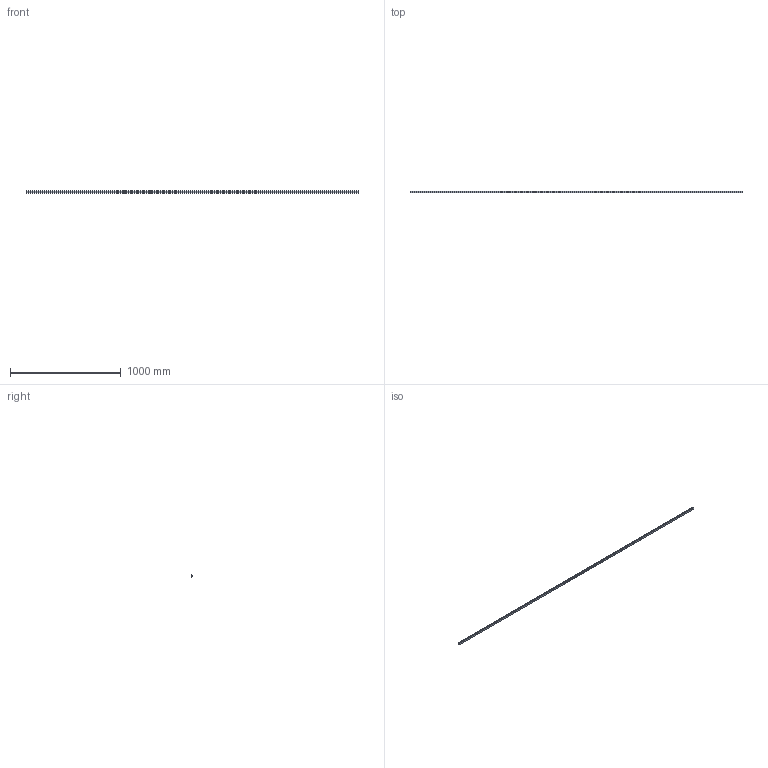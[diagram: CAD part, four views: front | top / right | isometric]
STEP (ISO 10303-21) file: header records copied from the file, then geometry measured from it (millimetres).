
FILE_DESCRIPTION (( 'STEP AP214' ), '1' );
FILE_NAME ('FABER - FL5.step', '2017-04-06T07:46:12', ( '' ), ( '' ), 'SwSTEP 2.0', 'SolidWorks 2016', '' );
FILE_SCHEMA (( 'AUTOMOTIVE_DESIGN' ));
Length unit declared in the file: millimetre
Products named in the file (1): FABER - FL5
Bounding box: 3000 x 12 x 20 mm (x, y, z)
Volume: 608250 mm3; surface area: 226648.1 mm2
Topology: 1 solids, 1 shells, 16 faces, 42 edges, 28 vertices
Faces by surface type: plane 16
Entity records: 520 total; most frequent: CARTESIAN_POINT 87, ORIENTED_EDGE 84, DIRECTION 76, VECTOR 42, LINE 42, EDGE_CURVE 42, VERTEX_POINT 28, AXIS2_PLACEMENT_3D 17
